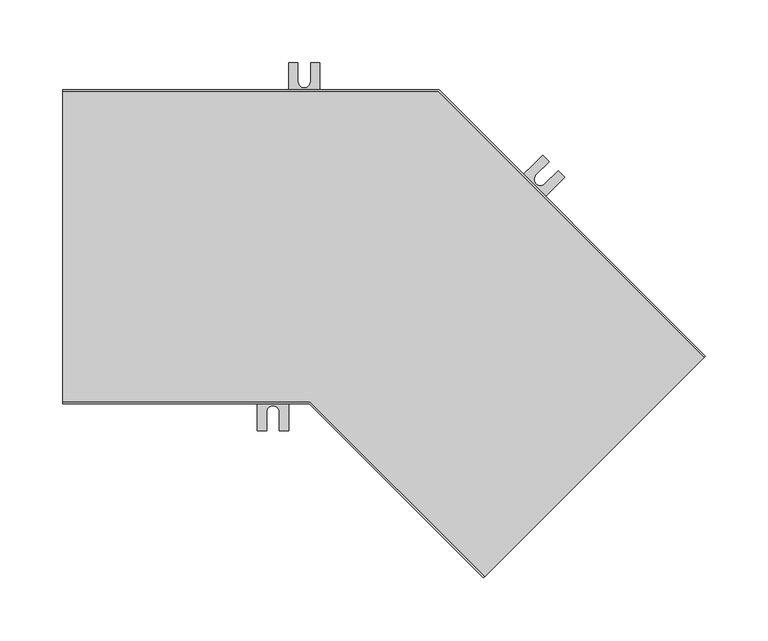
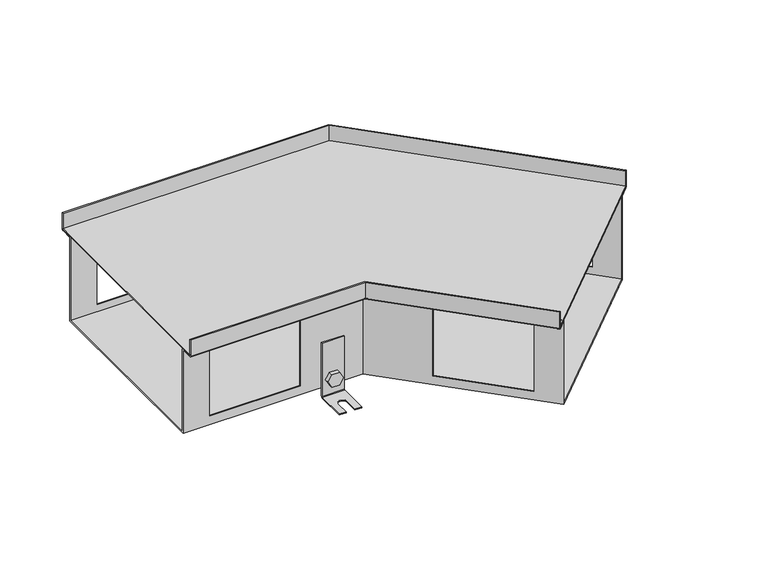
"""IFC4 building model written with IfcOpenShell, lengths in millimetres: proxy geometry, TECHNO_Угловой элемент_KVU : 250_120_135°."""

from ifc_helpers import new_model, si_unit, point, frame, frame_2d, origin, place, context, project, spatial, polyline, circle_curve, ellipse_curve, trimmed, segment, composite_curve, outline, extrude, source, transform, mapped, element, save
from ifc_brep_helpers import plane_surface, cylinder_surface, revolved_surface, advanced_brep


def mechanical_equipment_a1f23103(model_context):
    return source(origin(), model_context, "Body", "SolidModel", [
        extrude(outline(composite_curve([segment(trimmed(circle_curve(frame_2d((0.0, -7.5000001)), 7.5), [point((0.0, -15.0))], [point((0.0, 0.0))], False, "CARTESIAN"), True, "CONTINUOUS"), segment(trimmed(circle_curve(frame_2d((0.0, -7.5000001)), 7.5), [point((0.0, 0.0))], [point((0.0, -15.0))], False, "CARTESIAN"), True, "CONTINUOUS")], self_intersect=False)), frame((347.6589971, -25.3309017, -110.5), z_axis=(0.7071067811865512, 0.7071067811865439, 0.0), x_axis=(0.0, 0.0, 1.0)), (0.0, 0.0, 1.0), 1.5),
        extrude(outline(polyline([(0.0, 0.0), (8.6602541, 0.0), (12.9903811, -7.5), (8.660254, -15.0), (0.0, -15.0), (-4.330127, -7.5), (0.0, 0.0)])), frame((331.7771991, -18.3586492, -110.5), z_axis=(0.7071067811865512, 0.7071067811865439, 0.0), x_axis=(0.3535533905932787, -0.3535533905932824, -0.8660254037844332)), (0.0, 0.0, 1.0), 5.1),
        advanced_brep(
        [(350.3460028, -29.7149637, -65.5), (350.3460028, -29.7149637, -128.5), (349.7803174, -30.2806491, -129.3), (326.4457936, -53.6151729, -129.3), (326.4457936, -53.6151729, -130.5), (349.7803174, -30.2806491, -130.5), (351.194531, -28.8664356, -128.5), (351.194531, -28.8664356, -65.5), (332.6683333, -12.0372942, -65.5), (333.5168614, -11.1887661, -65.5), (333.5168614, -11.1887661, -128.5), (332.1026479, -12.6029796, -130.5), (308.7681241, -35.9375034, -130.5), (308.7681241, -35.9375034, -129.3), (332.1026479, -12.6029796, -129.3), (332.6683333, -12.0372942, -128.5), (314.0714249, -41.2408043, -129.3), (324.6780267, -30.6342025, -129.3), (331.7490945, -37.7052704, -129.3), (321.1424928, -48.3118721, -129.3), (321.1424928, -48.3118721, -130.5), (314.0714249, -41.2408043, -130.5), (331.7490945, -37.7052704, -130.5), (324.6780267, -30.6342025, -130.5)],
        [
            (0, 1),
            (1, 2, circle_curve(frame((349.7803174, -30.2806491, -128.5), z_axis=(-0.7071067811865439, 0.7071067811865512, 0.0), x_axis=(-0.7071067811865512, -0.7071067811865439, 0.0)), 0.8)),
            (2, 3),
            (3, 4),
            (4, 5),
            (5, 6, circle_curve(frame((349.7803174, -30.2806491, -128.5), z_axis=(0.7071067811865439, -0.7071067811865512, 0.0), x_axis=(-0.7071067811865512, -0.7071067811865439, 0.0)), 2.0)),
            (6, 7),
            (7, 0),
            (8, 9),
            (9, 10),
            (10, 11, circle_curve(frame((332.1026479, -12.6029796, -128.5), z_axis=(-0.7071067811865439, 0.7071067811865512, 0.0), x_axis=(-0.7071067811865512, -0.7071067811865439, 0.0)), 2.0)),
            (11, 12),
            (12, 13),
            (13, 14),
            (14, 15, circle_curve(frame((332.1026479, -12.6029796, -128.5), z_axis=(0.7071067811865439, -0.7071067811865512, 0.0), x_axis=(-0.7071067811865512, -0.7071067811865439, 0.0)), 0.8)),
            (15, 8),
            (0, 8),
            (15, 1),
            (14, 2),
            (13, 16),
            (16, 17),
            (17, 18, circle_curve(frame((328.2135606, -34.1697364, -129.3), z_axis=(0.0, 0.0, -1.0), x_axis=(0.7071067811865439, -0.7071067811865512, 0.0)), 5.0)),
            (18, 19),
            (19, 3),
            (19, 20),
            (20, 4),
            (12, 21),
            (21, 16),
            (20, 22),
            (22, 23, circle_curve(frame((328.2135606, -34.1697364, -130.5), z_axis=(0.0, 0.0, 1.0), x_axis=(0.7071067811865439, -0.7071067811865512, 0.0)), 5.0)),
            (23, 21),
            (11, 5),
            (10, 6),
            (9, 7),
            (23, 17),
            (18, 22),
        ],
        [
            plane_surface(frame((350.3460028, -29.7149637, -65.5), z_axis=(0.7071067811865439, -0.7071067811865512, 0.0), x_axis=(0.0, 0.0, -1.0))),
            plane_surface(frame((332.6683333, -12.0372942, -65.5), z_axis=(-0.7071067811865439, 0.7071067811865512, 0.0), x_axis=(0.0, 0.0, 1.0))),
            plane_surface(frame((350.3460028, -29.7149637, -65.5), z_axis=(-0.7071067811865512, -0.7071067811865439, 0.0), x_axis=(-0.7071067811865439, 0.7071067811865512, 0.0))),
            revolved_surface(polyline([(331.53696247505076, -13.168665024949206, -128.5), (349.2146319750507, -30.84633452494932, -128.5)]), (332.1026479, -12.6029796, -128.5), (-0.7071067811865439, 0.7071067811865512, 0.0)),
            plane_surface(frame((349.7803174, -30.2806491, -129.3), z_axis=(0.0, 0.0, 1.0), x_axis=(-0.7071067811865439, 0.7071067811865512, 0.0))),
            plane_surface(frame((326.4457936, -53.6151729, -129.3), z_axis=(-0.7071067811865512, -0.7071067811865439, 0.0), x_axis=(-0.7071067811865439, 0.7071067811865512, 0.0))),
            plane_surface(frame((326.4457936, -53.6151729, -130.5), z_axis=(0.0, 0.0, -1.0), x_axis=(-0.7071067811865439, 0.7071067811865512, 0.0))),
            cylinder_surface(frame((332.1026479, -12.6029796, -128.5), z_axis=(0.7071067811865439, -0.7071067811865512, 0.0), x_axis=(-0.7071067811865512, -0.7071067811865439, 0.0)), 2.0),
            plane_surface(frame((351.194531, -28.8664356, -128.5), z_axis=(0.7071067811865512, 0.7071067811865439, 0.0), x_axis=(-0.7071067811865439, 0.7071067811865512, 0.0))),
            plane_surface(frame((351.194531, -28.8664356, -65.5), z_axis=(0.0, 0.0, 1.0), x_axis=(-0.7071067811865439, 0.7071067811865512, 0.0))),
            plane_surface(frame((324.6780267, -30.6342025, -129.3), z_axis=(0.7071067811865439, -0.7071067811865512, 0.0), x_axis=(0.0, 0.0, -1.0))),
            plane_surface(frame((321.1424928, -48.3118721, -129.3), z_axis=(-0.707106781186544, 0.7071067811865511, 0.0), x_axis=(0.0, 0.0, -1.0))),
            revolved_surface(polyline([(331.7490945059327, -37.70527030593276, -129.3), (331.7490945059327, -37.70527030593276, -130.5)]), (328.2135606, -34.1697364, -130.5), (0.0, 0.0, 1.0)),
        ],
        [
            (0, [[1, 2, 3, 4, 5, 6, 7, 8]]),
            (1, [[9, 10, 11, 12, 13, 14, 15, 16]]),
            (2, [[-1, 17, -16, 18]]),
            (3, [[-2, -18, -15, 19]]),
            (4, [[-3, -19, -14, 20, 21, 22, 23, 24]]),
            (5, [[-4, -24, 25, 26]]),
            (5, [[-13, 27, 28, -20]]),
            (6, [[-5, -26, 29, 30, 31, -27, -12, 32]]),
            (7, [[-6, -32, -11, 33]]),
            (8, [[-7, -33, -10, 34]]),
            (9, [[-8, -34, -9, -17]]),
            (10, [[35, -21, -28, -31]]),
            (11, [[36, -29, -25, -23]]),
            (12, [[-35, -30, -36, -22]]),
        ],
    ),
        extrude(outline(composite_curve([segment(trimmed(circle_curve(frame_2d((0.0, -7.4999999)), 7.5), [point((0.0, -15.0))], [point((0.0, 0.0))], False, "CARTESIAN"), True, "CONTINUOUS"), segment(trimmed(circle_curve(frame_2d((0.0, -7.4999999)), 7.5), [point((0.0, 0.0))], [point((0.0, -15.0))], False, "CARTESIAN"), True, "CONTINUOUS")], self_intersect=False)), frame((360.2454978, 43.8241415, -110.5), z_axis=(0.7071067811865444, 0.7071067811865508, 0.0), x_axis=(0.0, 0.0, -1.0)), (0.0, 0.0, 1.0), 1.5),
        extrude(outline(polyline([(0.0, 0.0), (4.330127, -7.5), (0.0, -15.0), (-8.660254, -15.0), (-12.9903811, -7.5), (-8.6602541, 0.0), (0.0, 0.0)])), frame((373.5817113, 34.3063046, -110.5), z_axis=(0.7071067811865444, 0.7071067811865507, 0.0), x_axis=(0.35355339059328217, -0.35355339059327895, 0.8660254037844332)), (0.0, 0.0, 1.0), 5.1),
        advanced_brep(
        [(358.6191522, 49.2688637, -65.5), (358.6191522, 49.2688637, -128.5), (359.1848376, 49.8345492, -129.3), (382.5193614, 73.1690729, -129.3), (382.5193614, 73.1690729, -130.5), (359.1848376, 49.8345492, -130.5), (357.770624, 48.4203356, -128.5), (357.770624, 48.4203356, -65.5), (376.2968217, 31.5911942, -65.5), (375.4482936, 30.7426661, -65.5), (375.4482936, 30.7426661, -128.5), (376.8625071, 32.1568796, -130.5), (400.1970309, 55.4914034, -130.5), (400.1970309, 55.4914034, -129.3), (376.8625071, 32.1568796, -129.3), (376.2968217, 31.5911942, -128.5), (394.89373, 60.7947043, -129.3), (384.2871283, 50.1881026, -129.3), (377.2160605, 57.2591704, -129.3), (387.8226622, 67.8657721, -129.3), (387.8226622, 67.8657721, -130.5), (394.89373, 60.7947043, -130.5), (377.2160605, 57.2591704, -130.5), (384.2871283, 50.1881026, -130.5)],
        [
            (0, 1),
            (1, 2, circle_curve(frame((359.1848376, 49.8345492, -128.5), z_axis=(0.7071067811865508, -0.7071067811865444, 0.0), x_axis=(0.7071067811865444, 0.7071067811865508, 0.0)), 0.8)),
            (2, 3),
            (3, 4),
            (4, 5),
            (5, 6, circle_curve(frame((359.1848376, 49.8345492, -128.5), z_axis=(-0.7071067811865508, 0.7071067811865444, 0.0), x_axis=(0.7071067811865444, 0.7071067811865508, 0.0)), 2.0)),
            (6, 7),
            (7, 0),
            (8, 9),
            (9, 10),
            (10, 11, circle_curve(frame((376.8625071, 32.1568796, -128.5), z_axis=(0.7071067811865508, -0.7071067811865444, 0.0), x_axis=(0.7071067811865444, 0.7071067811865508, 0.0)), 2.0)),
            (11, 12),
            (12, 13),
            (13, 14),
            (14, 15, circle_curve(frame((376.8625071, 32.1568796, -128.5), z_axis=(-0.7071067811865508, 0.7071067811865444, 0.0), x_axis=(0.7071067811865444, 0.7071067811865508, 0.0)), 0.8)),
            (15, 8),
            (0, 8),
            (15, 1),
            (14, 2),
            (13, 16),
            (16, 17),
            (17, 18, circle_curve(frame((380.7515944, 53.7236365, -129.3), z_axis=(0.0, 0.0, -1.0), x_axis=(-0.7071067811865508, 0.7071067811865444, 0.0)), 5.0)),
            (18, 19),
            (19, 3),
            (19, 20),
            (20, 4),
            (12, 21),
            (21, 16),
            (20, 22),
            (22, 23, circle_curve(frame((380.7515944, 53.7236365, -130.5), z_axis=(0.0, 0.0, 1.0), x_axis=(-0.7071067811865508, 0.7071067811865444, 0.0)), 5.0)),
            (23, 21),
            (11, 5),
            (10, 6),
            (9, 7),
            (23, 17),
            (18, 22),
        ],
        [
            plane_surface(frame((358.6191522, 49.2688637, -65.5), z_axis=(-0.7071067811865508, 0.7071067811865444, 0.0), x_axis=(0.0, 0.0, -1.0))),
            plane_surface(frame((376.2968217, 31.5911942, -65.5), z_axis=(0.7071067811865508, -0.7071067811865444, 0.0), x_axis=(0.0, 0.0, 1.0))),
            plane_surface(frame((358.6191522, 49.2688637, -65.5), z_axis=(0.7071067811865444, 0.7071067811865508, 0.0), x_axis=(0.7071067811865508, -0.7071067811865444, 0.0))),
            revolved_surface(polyline([(377.4281925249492, 32.72256502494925, -128.5), (359.75052297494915, 50.40023457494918, -128.5)]), (376.8625071, 32.1568796, -128.5), (0.7071067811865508, -0.7071067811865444, 0.0)),
            plane_surface(frame((359.1848376, 49.8345492, -129.3), z_axis=(0.0, 0.0, 1.0000000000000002), x_axis=(0.7071067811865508, -0.7071067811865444, 0.0))),
            plane_surface(frame((382.5193614, 73.1690729, -129.3), z_axis=(0.7071067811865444, 0.7071067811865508, 0.0), x_axis=(0.7071067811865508, -0.7071067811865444, 0.0))),
            plane_surface(frame((382.5193614, 73.1690729, -130.5), z_axis=(0.0, 0.0, -1.0000000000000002), x_axis=(0.7071067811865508, -0.7071067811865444, 0.0))),
            cylinder_surface(frame((376.8625071, 32.1568796, -128.5), z_axis=(-0.7071067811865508, 0.7071067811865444, 0.0), x_axis=(0.7071067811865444, 0.7071067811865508, 0.0)), 2.0),
            plane_surface(frame((357.770624, 48.4203356, -128.5), z_axis=(-0.7071067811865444, -0.7071067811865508, 0.0), x_axis=(0.7071067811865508, -0.7071067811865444, 0.0))),
            plane_surface(frame((357.770624, 48.4203356, -65.5), z_axis=(0.0, 0.0, 1.0000000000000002), x_axis=(0.7071067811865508, -0.7071067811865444, 0.0))),
            plane_surface(frame((384.2871283, 50.1881026, -129.3), z_axis=(-0.7071067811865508, 0.7071067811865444, 0.0), x_axis=(0.0, 0.0, -1.0))),
            plane_surface(frame((387.8226622, 67.8657721, -129.3), z_axis=(0.7071067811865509, -0.7071067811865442, 0.0), x_axis=(0.0, 0.0, -1.0))),
            revolved_surface(polyline([(377.2160604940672, 57.25917040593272, -129.3), (377.2160604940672, 57.25917040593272, -130.5)]), (380.7515944, 53.7236365, -130.5), (0.0, 0.0, 1.0)),
        ],
        [
            (0, [[1, 2, 3, 4, 5, 6, 7, 8]]),
            (1, [[9, 10, 11, 12, 13, 14, 15, 16]]),
            (2, [[-1, 17, -16, 18]]),
            (3, [[-2, -18, -15, 19]]),
            (4, [[-3, -19, -14, 20, 21, 22, 23, 24]]),
            (5, [[-4, -24, 25, 26]]),
            (5, [[-13, 27, 28, -20]]),
            (6, [[-5, -26, 29, 30, 31, -27, -12, 32]]),
            (7, [[-6, -32, -11, 33]]),
            (8, [[-7, -33, -10, 34]]),
            (9, [[-8, -34, -9, -17]]),
            (10, [[35, -21, -28, -31]]),
            (11, [[36, -29, -25, -23]]),
            (12, [[-35, -30, -36, -22]]),
        ],
    ),
        extrude(outline(composite_curve([segment(trimmed(circle_curve(frame_2d((-110.5, 192.5)), 7.5), [point((-110.5, 185.0))], [point((-110.5, 200.0))], False, "CARTESIAN"), True, "CONTINUOUS"), segment(trimmed(circle_curve(frame_2d((-110.5, 192.5)), 7.5), [point((-110.5, 200.0))], [point((-110.5, 185.0))], False, "CARTESIAN"), True, "CONTINUOUS")], self_intersect=False)), frame((0.0, 110.2, 0.0), z_axis=(0.0, 1.0, 0.0), x_axis=(0.0, 0.0, 1.0)), (0.0, 0.0, 1.0), 1.5),
        extrude(outline(polyline([(-110.5, 183.839746), (-118.0, 188.169873), (-118.0, 196.830127), (-110.5, 201.160254), (-103.0, 196.830127), (-103.0, 188.169873), (-110.5, 183.839746)])), frame((0.0, 112.9, 0.0), z_axis=(0.0, 1.0, 0.0), x_axis=(0.0, 0.0, 1.0)), (0.0, 0.0, 1.0), 5.1),
        advanced_brep(
        [(205.0, 112.9, -65.5), (205.0, 111.7, -65.5), (205.0, 111.7, -128.5), (205.0, 113.7, -130.5), (205.0, 146.7, -130.5), (205.0, 146.7, -129.3), (205.0, 113.7, -129.3), (205.0, 112.9, -128.5), (180.0, 112.9, -65.5), (180.0, 112.9, -128.5), (180.0, 113.7, -129.3), (180.0, 146.7, -129.3), (180.0, 146.7, -130.5), (180.0, 113.7, -130.5), (180.0, 111.7, -128.5), (180.0, 111.7, -65.5), (197.5, 146.7, -129.3), (197.5, 131.7, -129.3), (187.5, 131.7, -129.3), (187.5, 146.7, -129.3), (187.5, 146.7, -130.5), (197.5, 146.7, -130.5), (187.5, 131.7, -130.5), (197.5, 131.7, -130.5)],
        [
            (0, 1),
            (1, 2),
            (2, 3, circle_curve(frame((205.0, 113.7, -128.5), z_axis=(1.0, 0.0, 0.0), x_axis=(0.0, 1.0, 0.0)), 2.0)),
            (3, 4),
            (4, 5),
            (5, 6),
            (6, 7, circle_curve(frame((205.0, 113.7, -128.5), z_axis=(-1.0, 0.0, 0.0), x_axis=(0.0, 1.0, 0.0)), 0.8)),
            (7, 0),
            (8, 9),
            (9, 10, circle_curve(frame((180.0, 113.7, -128.5), z_axis=(1.0, 0.0, 0.0), x_axis=(0.0, 1.0, 0.0)), 0.8)),
            (10, 11),
            (11, 12),
            (12, 13),
            (13, 14, circle_curve(frame((180.0, 113.7, -128.5), z_axis=(-1.0, 0.0, 0.0), x_axis=(0.0, 1.0, 0.0)), 2.0)),
            (14, 15),
            (15, 8),
            (7, 9),
            (8, 0),
            (6, 10),
            (5, 16),
            (16, 17),
            (17, 18, circle_curve(frame((192.5, 131.7, -129.3), z_axis=(0.0, 0.0, -1.0), x_axis=(1.0, 0.0, 0.0)), 5.0)),
            (18, 19),
            (19, 11),
            (19, 20),
            (20, 12),
            (4, 21),
            (21, 16),
            (3, 13),
            (20, 22),
            (22, 23, circle_curve(frame((192.5, 131.7, -130.5), z_axis=(0.0, 0.0, 1.0), x_axis=(1.0, 0.0, 0.0)), 5.0)),
            (23, 21),
            (2, 14),
            (1, 15),
            (18, 22),
            (23, 17),
        ],
        [
            plane_surface(frame((205.0, 112.9, -65.5), z_axis=(1.0, 0.0, 0.0), x_axis=(0.0, 0.0, -1.0))),
            plane_surface(frame((180.0, 112.9, -65.5), z_axis=(-1.0, 0.0, 0.0), x_axis=(0.0, 0.0, 1.0))),
            plane_surface(frame((205.0, 112.9, -65.5), z_axis=(0.0, 1.0, 0.0), x_axis=(-1.0, 0.0, 0.0))),
            revolved_surface(polyline([(180.0, 114.5, -128.5), (205.0, 114.5, -128.5)]), (180.0, 113.7, -128.5), (-1.0, 0.0, 0.0)),
            plane_surface(frame((205.0, 113.7, -129.3), z_axis=(0.0, 0.0, 1.0), x_axis=(-1.0, 0.0, 0.0))),
            plane_surface(frame((205.0, 146.7, -129.3), z_axis=(0.0, 1.0, 0.0), x_axis=(-1.0, 0.0, 0.0))),
            plane_surface(frame((205.0, 146.7, -130.5), z_axis=(0.0, 0.0, -1.0), x_axis=(-1.0, 0.0, 0.0))),
            cylinder_surface(frame((180.0, 113.7, -128.5), z_axis=(1.0, 0.0, 0.0), x_axis=(0.0, 1.0, 0.0)), 2.0),
            plane_surface(frame((205.0, 111.7, -128.5), z_axis=(0.0, -1.0, 0.0), x_axis=(-1.0, 0.0, 0.0))),
            plane_surface(frame((205.0, 111.7, -65.5), z_axis=(0.0, 0.0, 1.0), x_axis=(-1.0, 0.0, 0.0))),
            plane_surface(frame((187.5, 131.7, -129.3), z_axis=(1.0, 0.0, 0.0), x_axis=(0.0, 0.0, -1.0))),
            plane_surface(frame((197.5, 146.7, -129.3), z_axis=(-1.0, 0.0, 0.0), x_axis=(0.0, 0.0, -1.0))),
            revolved_surface(polyline([(197.5, 131.7, -129.3), (197.5, 131.7, -130.5)]), (192.5, 131.7, -130.5), (0.0, 0.0, 1.0)),
        ],
        [
            (0, [[1, 2, 3, 4, 5, 6, 7, 8]]),
            (1, [[9, 10, 11, 12, 13, 14, 15, 16]]),
            (2, [[17, -9, 18, -8]]),
            (3, [[19, -10, -17, -7]]),
            (4, [[20, 21, 22, 23, 24, -11, -19, -6]]),
            (5, [[-24, 25, 26, -12]]),
            (5, [[27, 28, -20, -5]]),
            (6, [[29, -13, -26, 30, 31, 32, -27, -4]]),
            (7, [[33, -14, -29, -3]]),
            (8, [[34, -15, -33, -2]]),
            (9, [[-18, -16, -34, -1]]),
            (10, [[-30, -25, -23, 35]]),
            (11, [[-21, -28, -32, 36]]),
            (12, [[-22, -36, -31, -35]]),
        ],
    ),
        extrude(outline(composite_curve([segment(trimmed(circle_curve(frame_2d((-110.5, 167.5)), 7.5), [point((-110.5, 160.0))], [point((-110.5, 175.0))], False, "CARTESIAN"), True, "CONTINUOUS"), segment(trimmed(circle_curve(frame_2d((-110.5, 167.5)), 7.5), [point((-110.5, 175.0))], [point((-110.5, 160.0))], False, "CARTESIAN"), True, "CONTINUOUS")], self_intersect=False)), frame((0.0, -111.7, 0.0), z_axis=(0.0, 1.0, 0.0), x_axis=(0.0, 0.0, 1.0)), (0.0, 0.0, 1.0), 1.5),
        extrude(outline(polyline([(-110.5, 158.839746), (-118.0, 163.169873), (-118.0, 171.830127), (-110.5, 176.160254), (-103.0, 171.830127), (-103.0, 163.169873), (-110.5, 158.839746)])), frame((0.0, -118.0, 0.0), z_axis=(0.0, 1.0, 0.0), x_axis=(0.0, 0.0, 1.0)), (0.0, 0.0, 1.0), 5.1),
        advanced_brep(
        [(180.0, -112.9, -65.5), (180.0, -112.9, -128.5), (180.0, -113.7, -129.3), (180.0, -146.7, -129.3), (180.0, -146.7, -130.5), (180.0, -113.7, -130.5), (180.0, -111.7, -128.5), (180.0, -111.7, -65.5), (155.0, -112.9, -65.5), (155.0, -111.7, -65.5), (155.0, -111.7, -128.5), (155.0, -113.7, -130.5), (155.0, -146.7, -130.5), (155.0, -146.7, -129.3), (155.0, -113.7, -129.3), (155.0, -112.9, -128.5), (162.5, -146.7, -129.3), (162.5, -131.7, -129.3), (172.5, -131.7, -129.3), (172.5, -146.7, -129.3), (172.5, -146.7, -130.5), (162.5, -146.7, -130.5), (172.5, -131.7, -130.5), (162.5, -131.7, -130.5)],
        [
            (0, 1),
            (1, 2, circle_curve(frame((180.0, -113.7, -128.5), z_axis=(-1.0, 0.0, 0.0), x_axis=(0.0, -1.0, 0.0)), 0.8)),
            (2, 3),
            (3, 4),
            (4, 5),
            (5, 6, circle_curve(frame((180.0, -113.7, -128.5), z_axis=(1.0, 0.0, 0.0), x_axis=(0.0, -1.0, 0.0)), 2.0)),
            (6, 7),
            (7, 0),
            (8, 9),
            (9, 10),
            (10, 11, circle_curve(frame((155.0, -113.7, -128.5), z_axis=(-1.0, 0.0, 0.0), x_axis=(0.0, -1.0, 0.0)), 2.0)),
            (11, 12),
            (12, 13),
            (13, 14),
            (14, 15, circle_curve(frame((155.0, -113.7, -128.5), z_axis=(1.0, 0.0, 0.0), x_axis=(0.0, -1.0, 0.0)), 0.8)),
            (15, 8),
            (0, 8),
            (15, 1),
            (14, 2),
            (13, 16),
            (16, 17),
            (17, 18, circle_curve(frame((167.5, -131.7, -129.3), z_axis=(0.0, 0.0, -1.0), x_axis=(1.0, 0.0, 0.0)), 5.0)),
            (18, 19),
            (19, 3),
            (19, 20),
            (20, 4),
            (12, 21),
            (21, 16),
            (20, 22),
            (22, 23, circle_curve(frame((167.5, -131.7, -130.5), z_axis=(0.0, 0.0, 1.0), x_axis=(1.0, 0.0, 0.0)), 5.0)),
            (23, 21),
            (11, 5),
            (10, 6),
            (9, 7),
            (23, 17),
            (18, 22),
        ],
        [
            plane_surface(frame((180.0, -112.9, -65.5), z_axis=(1.0, 0.0, 0.0), x_axis=(0.0, 0.0, -1.0))),
            plane_surface(frame((155.0, -112.9, -65.5), z_axis=(-1.0, 0.0, 0.0), x_axis=(0.0, 0.0, 1.0))),
            plane_surface(frame((180.0, -112.9, -65.5), z_axis=(0.0, -1.0, 0.0), x_axis=(-1.0, 0.0, 0.0))),
            revolved_surface(polyline([(155.0, -114.5, -128.5), (180.0, -114.5, -128.5)]), (155.0, -113.7, -128.5), (-1.0, 0.0, 0.0)),
            plane_surface(frame((180.0, -113.7, -129.3), z_axis=(0.0, 0.0, 1.0), x_axis=(-1.0, 0.0, 0.0))),
            plane_surface(frame((180.0, -146.7, -129.3), z_axis=(0.0, -1.0, 0.0), x_axis=(-1.0, 0.0, 0.0))),
            plane_surface(frame((180.0, -146.7, -130.5), z_axis=(0.0, 0.0, -1.0), x_axis=(-1.0, 0.0, 0.0))),
            cylinder_surface(frame((155.0, -113.7, -128.5), z_axis=(1.0, 0.0, 0.0), x_axis=(0.0, -1.0, 0.0)), 2.0),
            plane_surface(frame((180.0, -111.7, -128.5), z_axis=(0.0, 1.0, 0.0), x_axis=(-1.0, 0.0, 0.0))),
            plane_surface(frame((180.0, -111.7, -65.5), z_axis=(0.0, 0.0, 1.0), x_axis=(-1.0, 0.0, 0.0))),
            plane_surface(frame((162.5, -131.7, -129.3), z_axis=(1.0, 0.0, 0.0), x_axis=(0.0, 0.0, -1.0))),
            plane_surface(frame((172.5, -146.7, -129.3), z_axis=(-1.0, 0.0, 0.0), x_axis=(0.0, 0.0, -1.0))),
            revolved_surface(polyline([(172.5, -131.7, -129.3), (172.5, -131.7, -130.5)]), (167.5, -131.7, -130.5), (0.0, 0.0, 1.0)),
        ],
        [
            (0, [[1, 2, 3, 4, 5, 6, 7, 8]]),
            (1, [[9, 10, 11, 12, 13, 14, 15, 16]]),
            (2, [[-1, 17, -16, 18]]),
            (3, [[-2, -18, -15, 19]]),
            (4, [[-3, -19, -14, 20, 21, 22, 23, 24]]),
            (5, [[-4, -24, 25, 26]]),
            (5, [[-13, 27, 28, -20]]),
            (6, [[-5, -26, 29, 30, 31, -27, -12, 32]]),
            (7, [[-6, -32, -11, 33]]),
            (8, [[-7, -33, -10, 34]]),
            (9, [[-8, -34, -9, -17]]),
            (10, [[35, -21, -28, -31]]),
            (11, [[36, -29, -25, -23]]),
            (12, [[-35, -30, -36, -22]]),
        ],
    ),
        extrude(outline(polyline([(511.2835062, -87.9805625), (336.2038672, -263.0602015), (196.9436657, -123.8), (0.0, -123.8), (0.0, 123.8), (299.5029437, 123.8), (511.2835062, -87.9805625)])), frame((0.0, 0.0, -19.3), z_axis=(0.0, 0.0, 1.0), x_axis=(1.0, 0.0, 0.0)), (0.0, 0.0, 1.0), 1.2),
        advanced_brep(
        [(335.3553391, -263.9087297, -19.3), (336.2038672, -263.0602015, -20.5), (345.8205194, -253.4435493, -20.5), (345.8205194, -253.4435493, -120.0), (501.666854, -97.5972147, -120.0), (501.666854, -97.5972147, -20.5), (511.2835062, -87.9805625, -20.5), (512.1320344, -87.1320344, -19.3), (512.1320344, -87.1320344, 0.0), (511.2835062, -87.9805625, 0.0), (511.2835062, -87.9805625, -19.3), (501.666854, -97.5972147, -19.3), (500.8183259, -98.4457429, -20.5), (500.8183259, -98.4457429, -118.8), (346.6690476, -252.5950212, -118.8), (346.6690476, -252.5950212, -20.5), (345.8205194, -253.4435493, -19.3), (336.2038672, -263.0602015, -19.3), (336.2038672, -263.0602015, 0.0), (335.3553391, -263.9087297, 0.0), (0.0, -125.0, -19.3), (0.0, -125.0, 0.0), (0.0, -123.8, 0.0), (0.0, -123.8, -19.3), (0.0, -110.2, -19.3), (0.0, -109.0, -20.5), (0.0, -109.0, -118.8), (0.0, 109.0, -118.8), (0.0, 109.0, -20.5), (0.0, 110.2, -19.3), (0.0, 123.8, -19.3), (0.0, 123.8, 0.0), (0.0, 125.0, 0.0), (0.0, 125.0, -19.3), (0.0, 123.8, -20.5), (0.0, 110.2, -20.5), (0.0, 110.2, -120.0), (0.0, -110.2, -120.0), (0.0, -110.2, -20.5), (0.0, -123.8, -20.5), (196.9436657, -123.8, -20.5), (196.4466094, -125.0, -19.3), (196.9436657, -123.8, 0.0), (196.9436657, -123.8, -19.3), (202.5769701, -110.2, -120.0), (202.5769701, -110.2, -20.5), (30.0, -110.2, -30.5), (132.0, -110.2, -30.5), (132.0, -110.2, -110.0), (30.0, -110.2, -110.0), (203.0740264, -109.0, -20.5), (203.0740264, -109.0, -118.8), (132.0, -109.0, -30.5), (30.0, -109.0, -30.5), (30.0, -109.0, -110.0), (132.0, -109.0, -110.0), (202.5769701, -110.2, -19.3), (252.4824243, -160.1054542, -30.5), (324.607316, -232.2303459, -30.5), (324.607316, -232.2303459, -110.0), (252.4824243, -160.1054542, -110.0), (293.8696393, 110.2, -120.0), (293.372583, 109.0, -118.8), (325.4558441, -231.3818177, -30.5), (253.3309524, -159.256926, -30.5), (253.3309524, -159.256926, -110.0), (325.4558441, -231.3818177, -110.0), (196.4466094, -125.0, 0.0), (293.8696393, 110.2, -20.5), (480.4536506, -76.3840113, -30.5), (408.3287589, -4.2591196, -30.5), (408.3287589, -4.2591196, -110.0), (480.4536506, -76.3840113, -110.0), (299.5029437, 123.8, -20.5), (300.0, 125.0, -19.3), (300.0, 125.0, 0.0), (299.5029437, 123.8, 0.0), (299.5029437, 123.8, -19.3), (293.8696393, 110.2, -19.3), (293.372583, 109.0, -20.5), (407.4802307, -5.1076477, -30.5), (479.6051224, -77.2325394, -30.5), (479.6051224, -77.2325394, -110.0), (407.4802307, -5.1076477, -110.0), (132.0, 110.2, -30.5), (30.0, 110.2, -30.5), (30.0, 110.2, -110.0), (132.0, 110.2, -110.0), (30.0, 109.0, -30.5), (132.0, 109.0, -30.5), (132.0, 109.0, -110.0), (30.0, 109.0, -110.0)],
        [
            (0, 1, circle_curve(frame((336.2038672, -263.0602015, -19.3), z_axis=(0.707106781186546, -0.707106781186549, 0.0), x_axis=(-0.707106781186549, -0.707106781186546, 0.0)), 1.2)),
            (1, 2),
            (2, 3),
            (3, 4),
            (4, 5),
            (5, 6),
            (6, 7, circle_curve(frame((511.2835062, -87.9805625, -19.3), z_axis=(0.707106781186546, -0.707106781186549, 0.0), x_axis=(-0.707106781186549, -0.707106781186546, 0.0)), 1.2)),
            (7, 8),
            (8, 9),
            (9, 10),
            (10, 11),
            (11, 12, circle_curve(frame((501.666854, -97.5972147, -20.5), z_axis=(0.707106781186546, -0.707106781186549, 0.0), x_axis=(-0.707106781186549, -0.707106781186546, 0.0)), 1.2)),
            (12, 13),
            (13, 14),
            (14, 15),
            (15, 16, circle_curve(frame((345.8205194, -253.4435493, -20.5), z_axis=(0.707106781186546, -0.707106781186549, 0.0), x_axis=(-0.707106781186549, -0.707106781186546, 0.0)), 1.2)),
            (16, 17),
            (17, 18),
            (18, 19),
            (19, 0),
            (20, 21),
            (21, 22),
            (22, 23),
            (23, 24),
            (24, 25, circle_curve(frame((0.0, -110.2, -20.5), z_axis=(-1.0, 0.0, 0.0), x_axis=(0.0, -1.0, 0.0)), 1.2)),
            (25, 26),
            (26, 27),
            (27, 28),
            (28, 29, circle_curve(frame((0.0, 110.2, -20.5), z_axis=(-1.0, 0.0, 0.0), x_axis=(0.0, -1.0, 0.0)), 1.2)),
            (29, 30),
            (30, 31),
            (31, 32),
            (32, 33),
            (33, 34, circle_curve(frame((0.0, 123.8, -19.3), z_axis=(-1.0, 0.0, 0.0), x_axis=(0.0, -1.0, 0.0)), 1.2)),
            (34, 35),
            (35, 36),
            (36, 37),
            (37, 38),
            (38, 39),
            (39, 20, circle_curve(frame((0.0, -123.8, -19.3), z_axis=(-1.0, 0.0, 0.0), x_axis=(0.0, -1.0, 0.0)), 1.2)),
            (39, 40),
            (40, 41, ellipse_curve(frame((196.9436657, -123.8, -19.3), z_axis=(-0.9238795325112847, 0.3826834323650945, 0.0), x_axis=(0.3826834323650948, 0.9238795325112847, 0.0)), 1.2988706, 1.2)),
            (41, 20),
            (22, 42),
            (42, 43),
            (43, 23),
            (37, 44),
            (44, 45),
            (45, 38),
            (46, 47),
            (47, 48),
            (48, 49),
            (49, 46),
            (25, 50),
            (50, 51),
            (51, 26),
            (52, 53),
            (53, 54),
            (54, 55),
            (55, 52),
            (24, 56),
            (56, 50, ellipse_curve(frame((202.5769701, -110.2, -20.5), z_axis=(-0.9238795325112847, 0.3826834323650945, 0.0), x_axis=(0.3826834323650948, 0.9238795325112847, 0.0)), 1.2988706, 1.2)),
            (0, 41),
            (40, 1),
            (45, 2),
            (44, 3),
            (57, 58),
            (58, 59),
            (59, 60),
            (60, 57),
            (36, 61),
            (61, 4),
            (13, 62),
            (62, 27),
            (51, 14),
            (50, 15),
            (63, 64),
            (64, 65),
            (65, 66),
            (66, 63),
            (56, 16),
            (43, 17),
            (42, 18),
            (21, 67),
            (67, 19),
            (61, 68),
            (68, 5),
            (69, 70),
            (70, 71),
            (71, 72),
            (72, 69),
            (68, 35),
            (34, 73),
            (73, 6),
            (73, 74, ellipse_curve(frame((299.5029437, 123.8, -19.3), z_axis=(0.9238795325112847, -0.3826834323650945, 0.0), x_axis=(-0.38268343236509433, -0.9238795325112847, 0.0)), 1.2988706, 1.2)),
            (74, 7),
            (74, 75),
            (75, 8),
            (75, 32),
            (31, 76),
            (76, 9),
            (76, 77),
            (77, 10),
            (77, 30),
            (29, 78),
            (78, 11),
            (78, 79, ellipse_curve(frame((293.8696393, 110.2, -20.5), z_axis=(0.9238795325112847, -0.3826834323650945, 0.0), x_axis=(-0.38268343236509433, -0.9238795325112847, 0.0)), 1.2988706, 1.2)),
            (79, 12),
            (79, 62),
            (80, 81),
            (81, 82),
            (82, 83),
            (83, 80),
            (84, 85),
            (85, 86),
            (86, 87),
            (87, 84),
            (33, 74),
            (28, 79),
            (88, 89),
            (89, 90),
            (90, 91),
            (91, 88),
            (41, 67),
            (46, 53),
            (52, 47),
            (88, 85),
            (84, 89),
            (49, 54),
            (91, 86),
            (48, 55),
            (90, 87),
            (57, 64),
            (63, 58),
            (80, 70),
            (69, 81),
            (66, 59),
            (72, 82),
            (65, 60),
            (71, 83),
        ],
        [
            plane_surface(frame((423.7436867, -175.520382, 0.0), z_axis=(0.707106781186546, -0.707106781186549, 0.0), x_axis=(0.0, 0.0, 1.0))),
            plane_surface(frame((0.0, 0.0, 0.0), z_axis=(-1.0, 0.0, 0.0), x_axis=(0.0, 0.0, 1.0))),
            cylinder_surface(frame((248.2233047, -123.8, -19.3), z_axis=(1.0, 0.0, 0.0), x_axis=(0.0, -1.0, 0.0)), 1.2),
            plane_surface(frame((196.9436657, -123.8, -19.3), z_axis=(0.0, 1.0, 0.0), x_axis=(-1.0, 0.0, 0.0))),
            plane_surface(frame((202.5769701, -110.2, -20.5), z_axis=(0.0, -1.0, 0.0), x_axis=(-1.0, 0.0, 0.0))),
            plane_surface(frame((203.0740264, -109.0, -118.8), z_axis=(0.0, 1.0, 0.0), x_axis=(-1.0, 0.0, 0.0))),
            cylinder_surface(frame((248.2233047, -110.2, -20.5), z_axis=(1.0, 0.0, 0.0), x_axis=(0.0, -1.0, 0.0)), 1.2),
            cylinder_surface(frame((336.2038672, -263.0602015, -19.3), z_axis=(0.707106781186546, -0.707106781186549, 0.0), x_axis=(-0.707106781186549, -0.707106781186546, 0.0)), 1.2),
            plane_surface(frame((336.2038672, -263.0602015, -20.5), z_axis=(0.0, 0.0, -1.0), x_axis=(-0.707106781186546, 0.7071067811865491, 0.0))),
            plane_surface(frame((345.8205194, -253.4435493, -20.5), z_axis=(-0.7071067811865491, -0.7071067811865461, 0.0), x_axis=(-0.7071067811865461, 0.7071067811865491, 0.0))),
            plane_surface(frame((345.8205194, -253.4435493, -120.0), z_axis=(0.0, 0.0, -1.0), x_axis=(-0.7071067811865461, 0.7071067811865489, 0.0))),
            plane_surface(frame((500.8183259, -98.4457429, -118.8), z_axis=(0.0, 0.0, 1.0), x_axis=(-0.707106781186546, 0.7071067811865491, 0.0))),
            plane_surface(frame((346.6690476, -252.5950212, -118.8), z_axis=(0.707106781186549, 0.7071067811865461, 0.0), x_axis=(-0.7071067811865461, 0.707106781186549, 0.0))),
            cylinder_surface(frame((345.8205194, -253.4435493, -20.5), z_axis=(0.707106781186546, -0.707106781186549, 0.0), x_axis=(-0.707106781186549, -0.707106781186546, 0.0)), 1.2),
            plane_surface(frame((345.8205194, -253.4435493, -19.3), z_axis=(0.0, 0.0, 1.0000000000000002), x_axis=(-0.7071067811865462, 0.7071067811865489, 0.0))),
            plane_surface(frame((336.2038672, -263.0602015, -19.3), z_axis=(0.707106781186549, 0.7071067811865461, 0.0), x_axis=(-0.7071067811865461, 0.707106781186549, 0.0))),
            plane_surface(frame((336.2038672, -263.0602015, 0.0), z_axis=(0.0, 0.0, 1.0), x_axis=(-0.7071067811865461, 0.707106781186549, 0.0))),
            plane_surface(frame((501.666854, -97.5972147, -120.0), z_axis=(0.7071067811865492, 0.7071067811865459, 0.0), x_axis=(-0.7071067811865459, 0.7071067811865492, 0.0))),
            plane_surface(frame((501.666854, -97.5972147, -20.5), z_axis=(0.0, 0.0, -1.0000000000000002), x_axis=(-0.7071067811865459, 0.7071067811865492, 0.0))),
            cylinder_surface(frame((511.2835062, -87.9805625, -19.3), z_axis=(0.707106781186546, -0.707106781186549, 0.0), x_axis=(-0.707106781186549, -0.707106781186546, 0.0)), 1.2),
            plane_surface(frame((512.1320344, -87.1320344, -19.3), z_axis=(0.707106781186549, 0.707106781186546, 0.0), x_axis=(-0.707106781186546, 0.707106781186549, 0.0))),
            plane_surface(frame((512.1320344, -87.1320344, 0.0), z_axis=(0.0, 0.0, 1.0), x_axis=(-0.707106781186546, 0.707106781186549, 0.0))),
            plane_surface(frame((511.2835062, -87.9805625, 0.0), z_axis=(-0.707106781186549, -0.707106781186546, 0.0), x_axis=(-0.707106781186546, 0.707106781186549, 0.0))),
            plane_surface(frame((511.2835062, -87.9805625, -19.3), z_axis=(0.0, 0.0, 1.0), x_axis=(-0.707106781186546, 0.707106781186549, 0.0))),
            cylinder_surface(frame((501.666854, -97.5972147, -20.5), z_axis=(0.707106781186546, -0.707106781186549, 0.0), x_axis=(-0.707106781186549, -0.707106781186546, 0.0)), 1.2),
            plane_surface(frame((500.8183259, -98.4457429, -20.5), z_axis=(-0.7071067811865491, -0.707106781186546, 0.0), x_axis=(-0.707106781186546, 0.7071067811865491, 0.0))),
            plane_surface(frame((293.8696393, 110.2, -120.0), z_axis=(0.0, 1.0, 0.0), x_axis=(-1.0, 0.0, 0.0))),
            cylinder_surface(frame((248.2233047, 123.8, -19.3), z_axis=(1.0, 0.0, 0.0), x_axis=(0.0, -1.0, 0.0)), 1.2),
            plane_surface(frame((300.0, 125.0, -19.3), z_axis=(0.0, 1.0, 0.0), x_axis=(-1.0, 0.0, 0.0))),
            plane_surface(frame((299.5029437, 123.8, 0.0), z_axis=(0.0, -1.0, 0.0), x_axis=(-1.0, 0.0, 0.0))),
            cylinder_surface(frame((248.2233047, 110.2, -20.5), z_axis=(1.0, 0.0, 0.0), x_axis=(0.0, -1.0, 0.0)), 1.2),
            plane_surface(frame((293.372583, 109.0, -20.5), z_axis=(0.0, -1.0, 0.0), x_axis=(-1.0, 0.0, 0.0))),
            plane_surface(frame((196.4466094, -125.0, 0.0), z_axis=(0.0, -1.0, 0.0), x_axis=(-1.0, 0.0, 0.0))),
            plane_surface(frame((335.3553391, -263.9087297, 0.0), z_axis=(-0.707106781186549, -0.7071067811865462, 0.0), x_axis=(-0.7071067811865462, 0.707106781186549, 0.0))),
            plane_surface(frame((30.0, 125.0, -30.5), z_axis=(0.0, 0.0, -1.0), x_axis=(0.0, -1.0, 0.0))),
            plane_surface(frame((30.0, 125.0, -110.0), z_axis=(1.0, 0.0, 0.0), x_axis=(0.0, -1.0, 0.0))),
            plane_surface(frame((132.0, 125.0, -110.0), z_axis=(0.0, 0.0, 1.0), x_axis=(0.0, -1.0, 0.0))),
            plane_surface(frame((132.0, 125.0, -30.5), z_axis=(-1.0, 0.0, 0.0), x_axis=(0.0, -1.0, 0.0))),
            plane_surface(frame((418.7939392, 6.2060608, -30.5), z_axis=(0.0, 0.0, -1.0000000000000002), x_axis=(-0.7071067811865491, -0.7071067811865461, 0.0))),
            plane_surface(frame((490.9188309, -65.9188309, -30.5), z_axis=(-0.7071067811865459, 0.7071067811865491, 0.0), x_axis=(-0.7071067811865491, -0.7071067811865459, 0.0))),
            plane_surface(frame((490.9188309, -65.9188309, -110.0), z_axis=(0.0, 0.0, 1.0), x_axis=(-0.7071067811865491, -0.7071067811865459, 0.0))),
            plane_surface(frame((418.7939392, 6.2060608, -110.0), z_axis=(0.7071067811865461, -0.7071067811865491, 0.0), x_axis=(-0.7071067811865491, -0.7071067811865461, 0.0))),
        ],
        [
            (0, [[1, 2, 3, 4, 5, 6, 7, 8, 9, 10, 11, 12, 13, 14, 15, 16, 17, 18, 19, 20]]),
            (1, [[21, 22, 23, 24, 25, 26, 27, 28, 29, 30, 31, 32, 33, 34, 35, 36, 37, 38, 39, 40]]),
            (2, [[-40, 41, 42, 43]]),
            (3, [[-23, 44, 45, 46]]),
            (4, [[-38, 47, 48, 49], [50, 51, 52, 53]]),
            (5, [[-26, 54, 55, 56], [57, 58, 59, 60]]),
            (6, [[-25, 61, 62, -54]]),
            (7, [[-1, 63, -42, 64]]),
            (8, [[-2, -64, -41, -39, -49, 65]]),
            (9, [[-3, -65, -48, 66], [67, 68, 69, 70]]),
            (10, [[-4, -66, -47, -37, 71, 72]]),
            (11, [[-14, 73, 74, -27, -56, 75]]),
            (12, [[-15, -75, -55, 76], [77, 78, 79, 80]]),
            (13, [[-16, -76, -62, 81]]),
            (14, [[-17, -81, -61, -24, -46, 82]]),
            (15, [[-18, -82, -45, 83]]),
            (16, [[-19, -83, -44, -22, 84, 85]]),
            (17, [[-5, -72, 86, 87], [88, 89, 90, 91]]),
            (18, [[-6, -87, 92, -35, 93, 94]]),
            (19, [[-7, -94, 95, 96]]),
            (20, [[-8, -96, 97, 98]]),
            (21, [[-9, -98, 99, -32, 100, 101]]),
            (22, [[-10, -101, 102, 103]]),
            (23, [[-11, -103, 104, -30, 105, 106]]),
            (24, [[-12, -106, 107, 108]]),
            (25, [[-13, -108, 109, -73], [110, 111, 112, 113]]),
            (26, [[-36, -92, -86, -71], [114, 115, 116, 117]]),
            (27, [[-34, 118, -95, -93]]),
            (28, [[-33, -99, -97, -118]]),
            (29, [[-31, -104, -102, -100]]),
            (30, [[-29, 119, -107, -105]]),
            (31, [[-28, -74, -109, -119], [120, 121, 122, 123]]),
            (32, [[-21, -43, 124, -84]]),
            (33, [[-20, -85, -124, -63]]),
            (34, [[125, -57, 126, -50]]),
            (34, [[127, -114, 128, -120]]),
            (35, [[-125, -53, 129, -58]]),
            (35, [[-127, -123, 130, -115]]),
            (36, [[-129, -52, 131, -59]]),
            (36, [[-130, -122, 132, -116]]),
            (37, [[-131, -51, -126, -60]]),
            (37, [[-132, -121, -128, -117]]),
            (38, [[133, -77, 134, -67]]),
            (38, [[135, -88, 136, -110]]),
            (39, [[-134, -80, 137, -68]]),
            (39, [[-136, -91, 138, -111]]),
            (40, [[-137, -79, 139, -69]]),
            (40, [[-138, -90, 140, -112]]),
            (41, [[-133, -70, -139, -78]]),
            (41, [[-135, -113, -140, -89]]),
        ],
    ),
    ])


if __name__ == "__main__":
    model = new_model("IFC4")
    model_context = context("Model", 3, world=origin())
    ifc_project = project(units=[si_unit("LENGTHUNIT", "METRE", prefix="MILLI")], contexts=[model_context])
    site = spatial("IfcSite", under=ifc_project)
    building = spatial("IfcBuilding", under=site)
    placement = place(None, origin())
    mechanical_equipment_shape = mechanical_equipment_a1f23103(model_context)
    element("IfcBuildingElementProxy", 1, Name="TECHNO_Угловой элемент_KVU : 250_120_135°", ObjectType="TECHNO_Угловой элемент_KVU : 250_120_135°", at=placement, inside=building, context=model_context, shape_type="MappedRepresentation", body=[
        mapped(mechanical_equipment_shape, transform((0.0, 0.0, 0.0), x_axis=(1.0, 0.0, 0.0), y_axis=(0.0, 1.0, 0.0), z_axis=(0.0, 0.0, 1.0))),
    ])
    save(model, "model.ifc")
